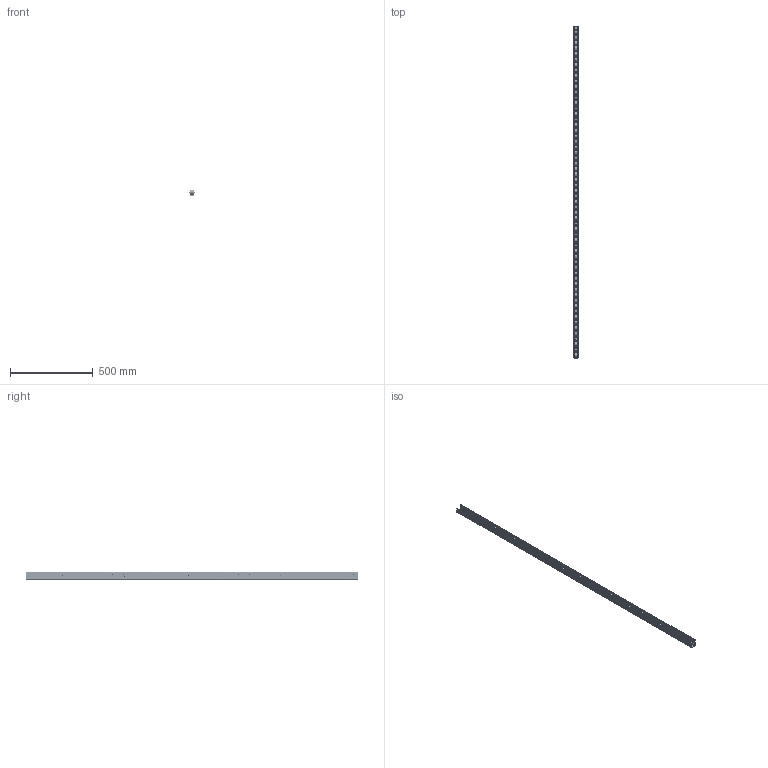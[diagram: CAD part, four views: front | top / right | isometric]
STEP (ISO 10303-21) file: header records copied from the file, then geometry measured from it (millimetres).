
FILE_DESCRIPTION( ( 'Unknown' ), '1' );
FILE_NAME( 'D:/Construktor/Listwy rolkowe 2015/Listwa T100L_33/Listwa T100L_33-2.stp', 'Unknown', ( 'Unknown' ), ( 'Unknown' ), 'PSStep 17.0.49', 'Unknown', ' ' );
FILE_SCHEMA( ( 'AUTOMOTIVE_DESIGN { 1 0 10303 214 1 1 1 1 }' ) );
Length unit declared in the file: millimetre
Products named in the file (8): Assem1; Ceownik T100L_33-2; Nit2.; Nit2.-oa0; Nit2.-oa1; Rolka T 100; Rolka T 100-oa2; Rolka T 100-oa3
Assembly tree (121 placements, depth 2):
  Assem1
    Ceownik T100L_33-2
    Nit2.  x58
    Nit2.-oa0
    Nit2.-oa1
    Rolka T 100  x58
    Rolka T 100-oa2
    Rolka T 100-oa3
Bounding box: 32 x 2000 x 44 mm (x, y, z)
Volume: 865198.7 mm3; surface area: 817435.2 mm2
Topology: 121 solids, 121 shells, 4246 faces, 11324 edges, 7560 vertices
Faces by surface type: plane 3370, cylinder 576, torus 120, cone 120, bspline 60
Full cylindrical faces by diameter (mm): 2 x60, 4.2 x32, 5 x60, 5.2 x120, 5.3 x60, 6 x120, 11.5 x120
Entity records: 15833 total; most frequent: CARTESIAN_POINT 2351, DIRECTION 2236, ORIENTED_EDGE 1646, AXIS2_PLACEMENT_3D 996, EDGE_LOOP 880, EDGE_CURVE 823, VERTEX_POINT 667, FACE_OUTER_BOUND 552
